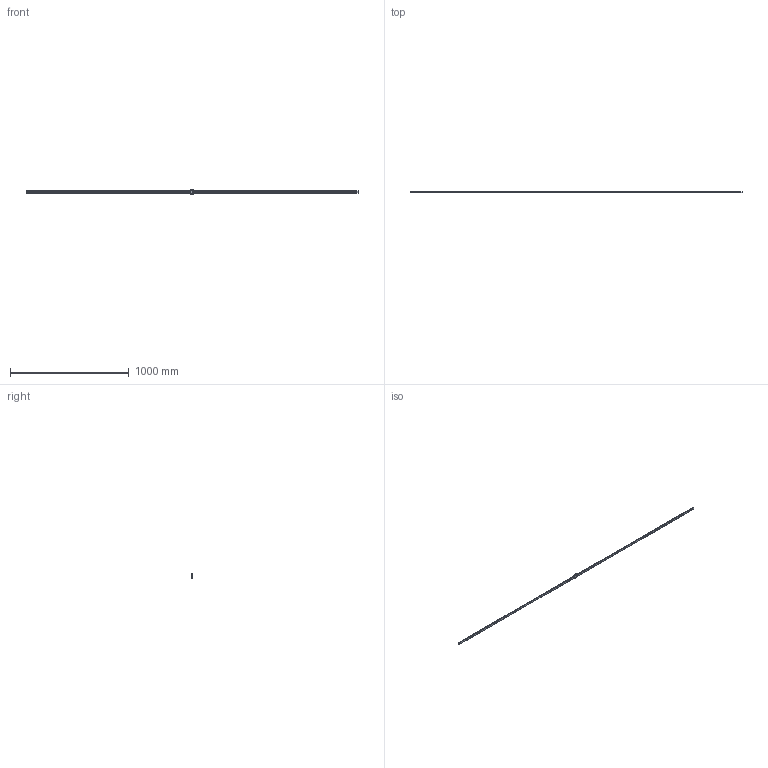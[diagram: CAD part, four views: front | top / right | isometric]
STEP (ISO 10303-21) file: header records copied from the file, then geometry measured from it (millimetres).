
FILE_DESCRIPTION(/* description */ ('STEP AP214'),/* implementation_level */ '2;1');
FILE_NAME(/* name */ 'SHW12CA1SSM-2790LTM_G15_0_Without_grease_nipple_1376-5_0_0_01',/* time_stamp */ '2024-02-12T10:00:32+01:00',/* author */ ('License CC BY-ND 4.0'),/* organization */ ('CADENAS'),/* preprocessor_version */ 'ST-DEVELOPER v19.3',/* originating_system */ 'PARTsolutions',/* authorisation */ ' ');
FILE_SCHEMA (('AUTOMOTIVE_DESIGN {1 0 10303 214 3 1 1}'));
Length unit declared in the file: millimetre
Products named in the file (4): SHW12CA1SSM-2790LTM_G15_0_Without_grease_nipple_1376-5_0_0_01; SHW12CAM279015 Track; SHW12CAMSS1 Slide12-50; -SHW_grease_nipple_joint
Assembly tree (3 placements, depth 2):
  SHW12CA1SSM-2790LTM_G15_0_Without_grease_nipple_1376-5_0_0_01
    SHW12CAM279015 Track
    SHW12CAMSS1 Slide12-50
    -SHW_grease_nipple_joint
Bounding box: 2790 x 12 x 40 mm (x, y, z)
Volume: 296149.3 mm3; surface area: 150365 mm2
Topology: 2 solids, 2 shells, 448 faces, 1100 edges, 729 vertices
Faces by surface type: plane 220, cylinder 220, cone 8
Full cylindrical faces by diameter (mm): 2.2 x2, 2.5 x6, 4.5 x70, 7.5 x70
Entity records: 12954 total; most frequent: DIRECTION 2306, CARTESIAN_POINT 2169, ORIENTED_EDGE 1872, EDGE_CURVE 936, AXIS2_PLACEMENT_3D 936, EDGE_LOOP 828, FACE_BOUND 828, VERTEX_POINT 720
